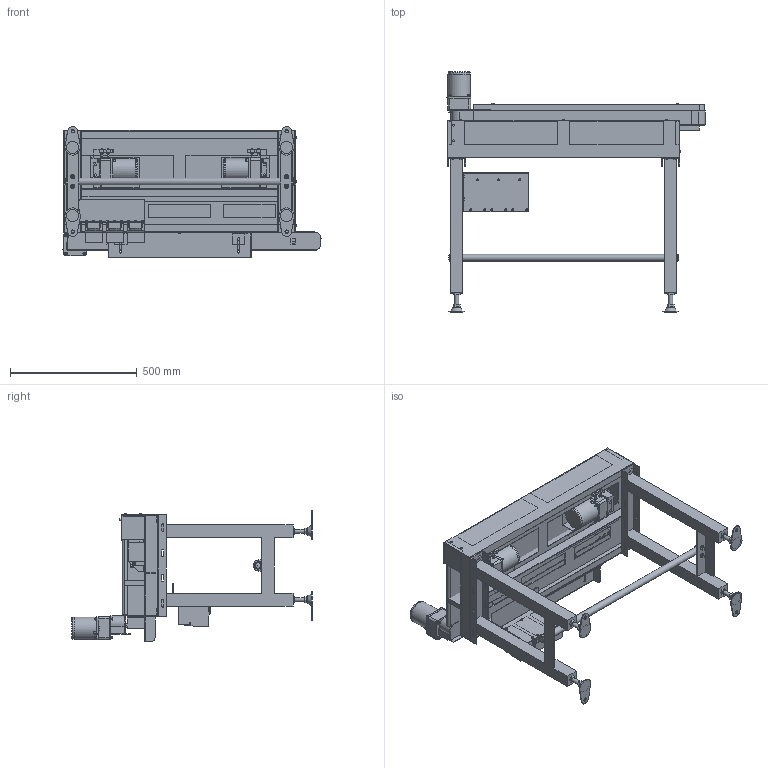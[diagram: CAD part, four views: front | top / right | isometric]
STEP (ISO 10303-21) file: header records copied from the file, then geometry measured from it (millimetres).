
FILE_DESCRIPTION( (''), '2;1');
FILE_NAME ('WEB-SGA-U-304x3-300-R-IVH-15-C.stp','2026-09-19T10:46:21',(''),(''),'spGate 21.9.5 (****-****-****-****)','','');
FILE_SCHEMA (('AUTOMOTIVE_DESIGN'));
Length unit declared in the file: millimetre
Products named in the file (91): WEB-SGA-U-304x3-300-R-IVH-15-C; TEMP_X_T-prt0; TEMP_X_T-prt1; TEMP_X_T-prt2; TEMP_X_T-prt3; TEMP_X_T-prt4; TEMP_X_T-prt5; TEMP_X_T-prt6; TEMP_X_T-prt7; TEMP_X_T-prt8; TEMP_X_T-prt9; TEMP_X_T-prt10; TEMP_X_T-prt11; TEMP_X_T-prt12; TEMP_X_T-prt13; TEMP_X_T-prt14; TEMP_X_T-prt15; TEMP_X_T-prt16; TEMP_X_T-prt17; TEMP_X_T-prt18; TEMP_X_T-prt19; TEMP_X_T-prt20; TEMP_X_T-prt21; TEMP_X_T-prt22; TEMP_X_T-prt23; TEMP_X_T-prt24; TEMP_X_T-prt25; TEMP_X_T-prt26; TEMP_X_T-prt27; TEMP_X_T-prt28; TEMP_X_T-prt29; TEMP_X_T-prt30; TEMP_X_T-prt31; TEMP_X_T-prt32; TEMP_X_T-prt33; TEMP_X_T-prt34; TEMP_X_T-prt35; TEMP_X_T-prt36; TEMP_X_T-prt37; TEMP_X_T-prt38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
Assembly tree (90 placements, depth 2):
  WEB-SGA-U-304x3-300-R-IVH-15-C
    TEMP_X_T-prt0
    TEMP_X_T-prt1
    TEMP_X_T-prt2
    TEMP_X_T-prt3
    TEMP_X_T-prt4
    TEMP_X_T-prt5
    TEMP_X_T-prt6
    TEMP_X_T-prt7
    TEMP_X_T-prt8
    TEMP_X_T-prt9
    TEMP_X_T-prt10
    TEMP_X_T-prt11
    TEMP_X_T-prt12
    TEMP_X_T-prt13
    TEMP_X_T-prt14
    TEMP_X_T-prt15
    TEMP_X_T-prt16
    TEMP_X_T-prt17
    TEMP_X_T-prt18
    TEMP_X_T-prt19
    TEMP_X_T-prt20
    TEMP_X_T-prt21
    TEMP_X_T-prt22
    TEMP_X_T-prt23
    TEMP_X_T-prt24
    TEMP_X_T-prt25
    TEMP_X_T-prt26
    TEMP_X_T-prt27
    TEMP_X_T-prt28
    TEMP_X_T-prt29
    TEMP_X_T-prt30
    TEMP_X_T-prt31
    TEMP_X_T-prt32
    TEMP_X_T-prt33
    TEMP_X_T-prt34
    TEMP_X_T-prt35
    TEMP_X_T-prt36
    TEMP_X_T-prt37
    TEMP_X_T-prt38
    TEMP_X_T-prt39
    TEMP_X_T-prt40
    TEMP_X_T-prt41
    TEMP_X_T-prt42
    TEMP_X_T-prt43
    TEMP_X_T-prt44
    TEMP_X_T-prt45
    TEMP_X_T-prt46
    TEMP_X_T-prt47
    TEMP_X_T-prt48
    TEMP_X_T-prt49
    TEMP_X_T-prt50
    TEMP_X_T-prt51
    TEMP_X_T-prt52
    TEMP_X_T-prt53
    TEMP_X_T-prt54
    TEMP_X_T-prt55
    TEMP_X_T-prt56
    TEMP_X_T-prt57
    TEMP_X_T-prt58
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Bounding box: 1019.27 x 948 x 517 mm (x, y, z)
Volume: 22710664.1 mm3; surface area: 5130579.5 mm2
Topology: 90 solids, 91 shells, 2630 faces, 6766 edges, 4486 vertices
Faces by surface type: plane 1970, cylinder 458, bspline 202
Full cylindrical faces by diameter (mm): 2 x3, 3.3 x9, 4 x18, 5 x15, 5.5 x3, 6 x32, 6.5 x24, 6.6 x12, 7 x4, 8 x8, 8.49 x3, 10 x12, 10.5 x1, 12 x3, 12.5 x12, 13 x4, 16 x8, 17 x4, 20 x7, 22 x1, 27.2 x1, 28 x2, 36 x3, 40 x4, 50 x2, 83 x3, 84 x3, 86.3 x3, 89 x3
Entity records: 140153 total; most frequent: CARTESIAN_POINT 19616, ORIENTED_EDGE 13500, DIRECTION 12914, COLOUR_RGB 9470, PRESENTATION_STYLE_ASSIGNMENT 9470, STYLED_ITEM 9470, EDGE_CURVE 6750, DRAUGHTING_PRE_DEFINED_CURVE_FONT 6750
